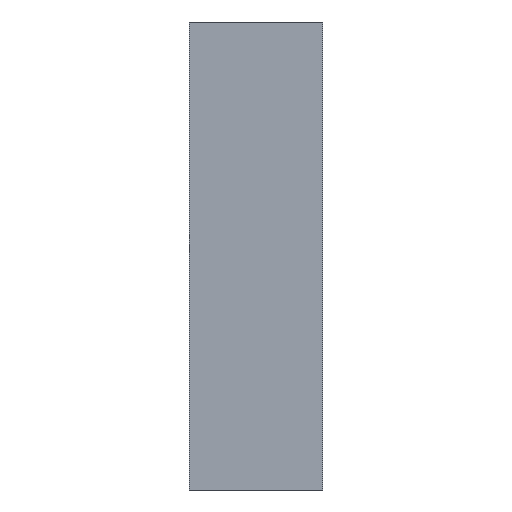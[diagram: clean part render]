
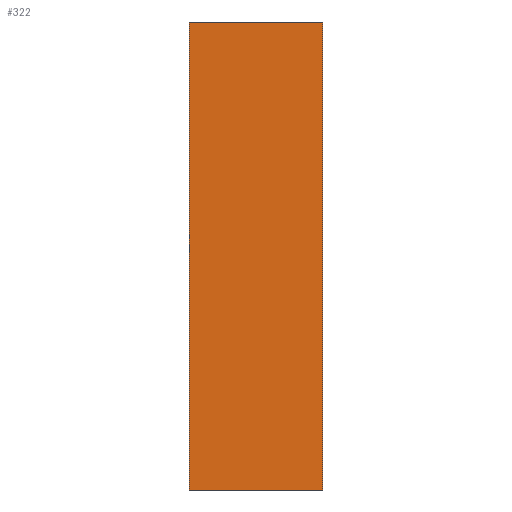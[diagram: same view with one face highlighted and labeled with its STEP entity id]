
A CAD part, left-side view. The second image highlights one B-rep face of the part: STEP entity #322.
In plain terms, the highlighted planar face has unit normal (-1, 0, 0).
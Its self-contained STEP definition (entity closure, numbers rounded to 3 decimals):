
#22 = VECTOR ( 'NONE', #818, 1000. ) ;
#69 = LINE ( 'NONE', #82, #958 ) ;
#82 = CARTESIAN_POINT ( 'NONE',  ( -98., 56., 98. ) ) ;
#97 = ORIENTED_EDGE ( 'NONE', *, *, #378, .T. ) ;
#160 = VERTEX_POINT ( 'NONE', #764 ) ;
#167 = LINE ( 'NONE', #599, #244 ) ;
#181 = VECTOR ( 'NONE', #613, 1000. ) ;
#191 = LINE ( 'NONE', #655, #22 ) ;
#244 = VECTOR ( 'NONE', #604, 1000. ) ;
#305 = ORIENTED_EDGE ( 'NONE', *, *, #716, .F. ) ;
#322 = ADVANCED_FACE ( 'NONE', ( #393 ), #629, .F. ) ;
#352 = DIRECTION ( 'NONE',  ( 1., 0., 0. ) ) ;
#358 = CARTESIAN_POINT ( 'NONE',  ( -98., 56., 98. ) ) ;
#372 = VERTEX_POINT ( 'NONE', #893 ) ;
#378 = EDGE_CURVE ( 'NONE', #662, #372, #191, .T. ) ;
#393 = FACE_OUTER_BOUND ( 'NONE', #886, .T. ) ;
#435 = CARTESIAN_POINT ( 'NONE',  ( -98., 56., -98. ) ) ;
#453 = EDGE_CURVE ( 'NONE', #583, #662, #667, .T. ) ;
#476 = CARTESIAN_POINT ( 'NONE',  ( -98., 0., -98. ) ) ;
#486 = ORIENTED_EDGE ( 'NONE', *, *, #631, .F. ) ;
#492 = DIRECTION ( 'NONE',  ( 0., 0., -1. ) ) ;
#583 = VERTEX_POINT ( 'NONE', #925 ) ;
#599 = CARTESIAN_POINT ( 'NONE',  ( -98., 56., 98. ) ) ;
#604 = DIRECTION ( 'NONE',  ( 0., 0., 1. ) ) ;
#613 = DIRECTION ( 'NONE',  ( 0., -1., 0. ) ) ;
#629 = PLANE ( 'NONE',  #823 ) ;
#631 = EDGE_CURVE ( 'NONE', #160, #372, #69, .T. ) ;
#655 = CARTESIAN_POINT ( 'NONE',  ( -98., 0., 98. ) ) ;
#662 = VERTEX_POINT ( 'NONE', #476 ) ;
#667 = LINE ( 'NONE', #435, #181 ) ;
#681 = ORIENTED_EDGE ( 'NONE', *, *, #453, .T. ) ;
#716 = EDGE_CURVE ( 'NONE', #583, #160, #167, .T. ) ;
#748 = DIRECTION ( 'NONE',  ( 0., -1., 0. ) ) ;
#764 = CARTESIAN_POINT ( 'NONE',  ( -98., 56., 98. ) ) ;
#818 = DIRECTION ( 'NONE',  ( 0., 0., 1. ) ) ;
#823 = AXIS2_PLACEMENT_3D ( 'NONE', #358, #352, #492 ) ;
#886 = EDGE_LOOP ( 'NONE', ( #97, #486, #305, #681 ) ) ;
#893 = CARTESIAN_POINT ( 'NONE',  ( -98., 0., 98. ) ) ;
#925 = CARTESIAN_POINT ( 'NONE',  ( -98., 56., -98. ) ) ;
#958 = VECTOR ( 'NONE', #748, 1000. ) ;
